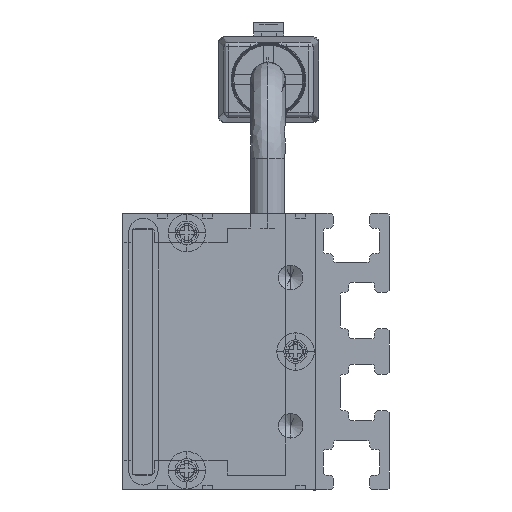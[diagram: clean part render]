
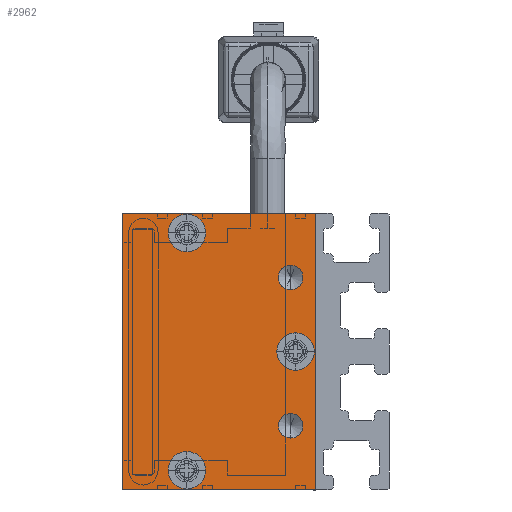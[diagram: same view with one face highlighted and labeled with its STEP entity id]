
A CAD part, left-side view. The second image highlights one B-rep face of the part: STEP entity #2962.
In plain terms, the highlighted planar face has unit normal (-1, 0, 0) as drawn and (0, 0, -1) by its records, which use the part's own axes.
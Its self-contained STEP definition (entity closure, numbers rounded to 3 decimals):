
#82 = CARTESIAN_POINT ( 'NONE',  ( 14., 19.5, -2.5 ) ) ;
#93 = CIRCLE ( 'NONE', #2600, 1.9 ) ;
#95 = EDGE_LOOP ( 'NONE', ( #4852, #1939 ) ) ;
#97 = VECTOR ( 'NONE', #3567, 1000. ) ;
#126 = DIRECTION ( 'NONE',  ( 0., 0., -1. ) ) ;
#247 = EDGE_CURVE ( 'NONE', #3191, #642, #8001, .T. ) ;
#265 = AXIS2_PLACEMENT_3D ( 'NONE', #3477, #10921, #7748 ) ;
#296 = CIRCLE ( 'NONE', #8449, 1.25 ) ;
#444 = DIRECTION ( 'NONE',  ( -1., 0., 0. ) ) ;
#498 = CARTESIAN_POINT ( 'NONE',  ( -8.75, 2.5, -2.5 ) ) ;
#642 = VERTEX_POINT ( 'NONE', #6154 ) ;
#649 = VECTOR ( 'NONE', #9589, 1000. ) ;
#671 = CARTESIAN_POINT ( 'NONE',  ( 14., 19.5, -2.5 ) ) ;
#696 = CARTESIAN_POINT ( 'NONE',  ( -1.9, 2., -2.5 ) ) ;
#718 = DIRECTION ( 'NONE',  ( 0., 0., -1. ) ) ;
#761 = EDGE_CURVE ( 'NONE', #12679, #4961, #11055, .T. ) ;
#975 = DIRECTION ( 'NONE',  ( -1., 0., 0. ) ) ;
#997 = DIRECTION ( 'NONE',  ( -1., 0., 0. ) ) ;
#1152 = EDGE_CURVE ( 'NONE', #10745, #11204, #11632, .T. ) ;
#1370 = EDGE_CURVE ( 'NONE', #11075, #11569, #4855, .T. ) ;
#1515 = DIRECTION ( 'NONE',  ( 0., 0., -1. ) ) ;
#1857 = DIRECTION ( 'NONE',  ( -1., 0., 0. ) ) ;
#1939 = ORIENTED_EDGE ( 'NONE', *, *, #1152, .F. ) ;
#1977 = ORIENTED_EDGE ( 'NONE', *, *, #3134, .F. ) ;
#1993 = EDGE_CURVE ( 'NONE', #4961, #12679, #296, .T. ) ;
#2145 = AXIS2_PLACEMENT_3D ( 'NONE', #9085, #3702, #444 ) ;
#2254 = ORIENTED_EDGE ( 'NONE', *, *, #13867, .F. ) ;
#2264 = DIRECTION ( 'NONE',  ( -1., 0., 0. ) ) ;
#2317 = VERTEX_POINT ( 'NONE', #2354 ) ;
#2354 = CARTESIAN_POINT ( 'NONE',  ( 8.75, 2.5, -2.5 ) ) ;
#2448 = VECTOR ( 'NONE', #6949, 1000. ) ;
#2450 = CARTESIAN_POINT ( 'NONE',  ( 0., 2., -2.5 ) ) ;
#2600 = AXIS2_PLACEMENT_3D ( 'NONE', #7330, #718, #1857 ) ;
#2624 = CARTESIAN_POINT ( 'NONE',  ( 14., 0., -2.5 ) ) ;
#2846 = CIRCLE ( 'NONE', #13029, 1.9 ) ;
#2864 = CIRCLE ( 'NONE', #12341, 1.25 ) ;
#2962 = ADVANCED_FACE ( 'NONE', ( #5768, #3570, #6983, #12203, #5841, #11282 ), #5976, .T. ) ;
#3098 = DIRECTION ( 'NONE',  ( 0., 0., -1. ) ) ;
#3134 = EDGE_CURVE ( 'NONE', #11569, #11075, #93, .T. ) ;
#3191 = VERTEX_POINT ( 'NONE', #13455 ) ;
#3253 = ORIENTED_EDGE ( 'NONE', *, *, #13074, .F. ) ;
#3271 = CARTESIAN_POINT ( 'NONE',  ( 12., 13., -2.5 ) ) ;
#3313 = ORIENTED_EDGE ( 'NONE', *, *, #3639, .F. ) ;
#3323 = CARTESIAN_POINT ( 'NONE',  ( 6.25, 2.5, -2.5 ) ) ;
#3477 = CARTESIAN_POINT ( 'NONE',  ( 7.5, 2.5, -2.5 ) ) ;
#3567 = DIRECTION ( 'NONE',  ( 0., -1., 0. ) ) ;
#3570 = FACE_BOUND ( 'NONE', #12141, .T. ) ;
#3589 = AXIS2_PLACEMENT_3D ( 'NONE', #4359, #10670, #8681 ) ;
#3639 = EDGE_CURVE ( 'NONE', #6710, #10729, #7599, .T. ) ;
#3702 = DIRECTION ( 'NONE',  ( 0., 0., -1. ) ) ;
#3816 = CARTESIAN_POINT ( 'NONE',  ( -14., 19.5, -2.5 ) ) ;
#3988 = CARTESIAN_POINT ( 'NONE',  ( -10.1, 13., -2.5 ) ) ;
#4280 = CARTESIAN_POINT ( 'NONE',  ( 12., 13., -2.5 ) ) ;
#4359 = CARTESIAN_POINT ( 'NONE',  ( -7.5, 2.5, -2.5 ) ) ;
#4465 = ORIENTED_EDGE ( 'NONE', *, *, #10848, .F. ) ;
#4476 = CARTESIAN_POINT ( 'NONE',  ( 10.1, 13., -2.5 ) ) ;
#4549 = LINE ( 'NONE', #82, #6046 ) ;
#4558 = DIRECTION ( 'NONE',  ( -1., 0., 0. ) ) ;
#4836 = AXIS2_PLACEMENT_3D ( 'NONE', #10667, #3098, #5438 ) ;
#4852 = ORIENTED_EDGE ( 'NONE', *, *, #11163, .F. ) ;
#4855 = CIRCLE ( 'NONE', #5538, 1.9 ) ;
#4961 = VERTEX_POINT ( 'NONE', #498 ) ;
#5081 = CARTESIAN_POINT ( 'NONE',  ( 1.9, 2., -2.5 ) ) ;
#5189 = ORIENTED_EDGE ( 'NONE', *, *, #9048, .F. ) ;
#5280 = CIRCLE ( 'NONE', #4836, 1.9 ) ;
#5322 = ORIENTED_EDGE ( 'NONE', *, *, #6861, .F. ) ;
#5438 = DIRECTION ( 'NONE',  ( -1., 0., 0. ) ) ;
#5538 = AXIS2_PLACEMENT_3D ( 'NONE', #6907, #1515, #5844 ) ;
#5768 = FACE_BOUND ( 'NONE', #95, .T. ) ;
#5841 = FACE_BOUND ( 'NONE', #9420, .T. ) ;
#5844 = DIRECTION ( 'NONE',  ( -1., 0., 0. ) ) ;
#5868 = ORIENTED_EDGE ( 'NONE', *, *, #761, .F. ) ;
#5976 = PLANE ( 'NONE',  #2145 ) ;
#6038 = CARTESIAN_POINT ( 'NONE',  ( -7.5, 2.5, -2.5 ) ) ;
#6046 = VECTOR ( 'NONE', #10936, 1000. ) ;
#6154 = CARTESIAN_POINT ( 'NONE',  ( 14., 0., -2.5 ) ) ;
#6226 = LINE ( 'NONE', #10535, #97 ) ;
#6314 = EDGE_LOOP ( 'NONE', ( #2254, #5322 ) ) ;
#6358 = LINE ( 'NONE', #8530, #649 ) ;
#6646 = ORIENTED_EDGE ( 'NONE', *, *, #247, .F. ) ;
#6710 = VERTEX_POINT ( 'NONE', #696 ) ;
#6796 = VERTEX_POINT ( 'NONE', #3323 ) ;
#6800 = CARTESIAN_POINT ( 'NONE',  ( 7.5, 2.5, -2.5 ) ) ;
#6861 = EDGE_CURVE ( 'NONE', #2317, #6796, #2864, .T. ) ;
#6907 = CARTESIAN_POINT ( 'NONE',  ( -12., 13., -2.5 ) ) ;
#6949 = DIRECTION ( 'NONE',  ( 1., 0., 0. ) ) ;
#6983 = FACE_BOUND ( 'NONE', #9944, .T. ) ;
#7330 = CARTESIAN_POINT ( 'NONE',  ( -12., 13., -2.5 ) ) ;
#7599 = CIRCLE ( 'NONE', #9848, 1.9 ) ;
#7748 = DIRECTION ( 'NONE',  ( -1., 0., 0. ) ) ;
#7805 = AXIS2_PLACEMENT_3D ( 'NONE', #4280, #12927, #13930 ) ;
#7924 = VERTEX_POINT ( 'NONE', #671 ) ;
#8001 = LINE ( 'NONE', #2624, #2448 ) ;
#8449 = AXIS2_PLACEMENT_3D ( 'NONE', #6038, #126, #975 ) ;
#8518 = ORIENTED_EDGE ( 'NONE', *, *, #11917, .F. ) ;
#8530 = CARTESIAN_POINT ( 'NONE',  ( -14., 19.5, -2.5 ) ) ;
#8541 = CARTESIAN_POINT ( 'NONE',  ( 13.9, 13., -2.5 ) ) ;
#8681 = DIRECTION ( 'NONE',  ( -1., 0., 0. ) ) ;
#8691 = DIRECTION ( 'NONE',  ( 0., 0., -1. ) ) ;
#9048 = EDGE_CURVE ( 'NONE', #7924, #10572, #6358, .T. ) ;
#9085 = CARTESIAN_POINT ( 'NONE',  ( 0., 0., -2.5 ) ) ;
#9420 = EDGE_LOOP ( 'NONE', ( #11996, #5868 ) ) ;
#9589 = DIRECTION ( 'NONE',  ( -1., 0., 0. ) ) ;
#9648 = DIRECTION ( 'NONE',  ( 0., 0., -1. ) ) ;
#9832 = CARTESIAN_POINT ( 'NONE',  ( -6.25, 2.5, -2.5 ) ) ;
#9848 = AXIS2_PLACEMENT_3D ( 'NONE', #2450, #13152, #4558 ) ;
#9944 = EDGE_LOOP ( 'NONE', ( #3313, #3253 ) ) ;
#10535 = CARTESIAN_POINT ( 'NONE',  ( -14., 0., -2.5 ) ) ;
#10572 = VERTEX_POINT ( 'NONE', #3816 ) ;
#10667 = CARTESIAN_POINT ( 'NONE',  ( 0., 2., -2.5 ) ) ;
#10670 = DIRECTION ( 'NONE',  ( 0., 0., -1. ) ) ;
#10729 = VERTEX_POINT ( 'NONE', #5081 ) ;
#10745 = VERTEX_POINT ( 'NONE', #8541 ) ;
#10795 = CARTESIAN_POINT ( 'NONE',  ( -13.9, 13., -2.5 ) ) ;
#10848 = EDGE_CURVE ( 'NONE', #10572, #3191, #6226, .T. ) ;
#10921 = DIRECTION ( 'NONE',  ( 0., 0., -1. ) ) ;
#10936 = DIRECTION ( 'NONE',  ( 0., 1., 0. ) ) ;
#11055 = CIRCLE ( 'NONE', #3589, 1.25 ) ;
#11075 = VERTEX_POINT ( 'NONE', #3988 ) ;
#11163 = EDGE_CURVE ( 'NONE', #11204, #10745, #2846, .T. ) ;
#11204 = VERTEX_POINT ( 'NONE', #4476 ) ;
#11282 = FACE_OUTER_BOUND ( 'NONE', #13102, .T. ) ;
#11569 = VERTEX_POINT ( 'NONE', #10795 ) ;
#11632 = CIRCLE ( 'NONE', #7805, 1.9 ) ;
#11772 = ORIENTED_EDGE ( 'NONE', *, *, #1370, .F. ) ;
#11917 = EDGE_CURVE ( 'NONE', #642, #7924, #4549, .T. ) ;
#11996 = ORIENTED_EDGE ( 'NONE', *, *, #1993, .F. ) ;
#12034 = CIRCLE ( 'NONE', #265, 1.25 ) ;
#12141 = EDGE_LOOP ( 'NONE', ( #1977, #11772 ) ) ;
#12203 = FACE_BOUND ( 'NONE', #6314, .T. ) ;
#12341 = AXIS2_PLACEMENT_3D ( 'NONE', #6800, #8691, #2264 ) ;
#12679 = VERTEX_POINT ( 'NONE', #9832 ) ;
#12927 = DIRECTION ( 'NONE',  ( 0., 0., -1. ) ) ;
#13029 = AXIS2_PLACEMENT_3D ( 'NONE', #3271, #9648, #997 ) ;
#13074 = EDGE_CURVE ( 'NONE', #10729, #6710, #5280, .T. ) ;
#13102 = EDGE_LOOP ( 'NONE', ( #8518, #6646, #4465, #5189 ) ) ;
#13152 = DIRECTION ( 'NONE',  ( 0., 0., -1. ) ) ;
#13455 = CARTESIAN_POINT ( 'NONE',  ( -14., 0., -2.5 ) ) ;
#13867 = EDGE_CURVE ( 'NONE', #6796, #2317, #12034, .T. ) ;
#13930 = DIRECTION ( 'NONE',  ( -1., 0., 0. ) ) ;
